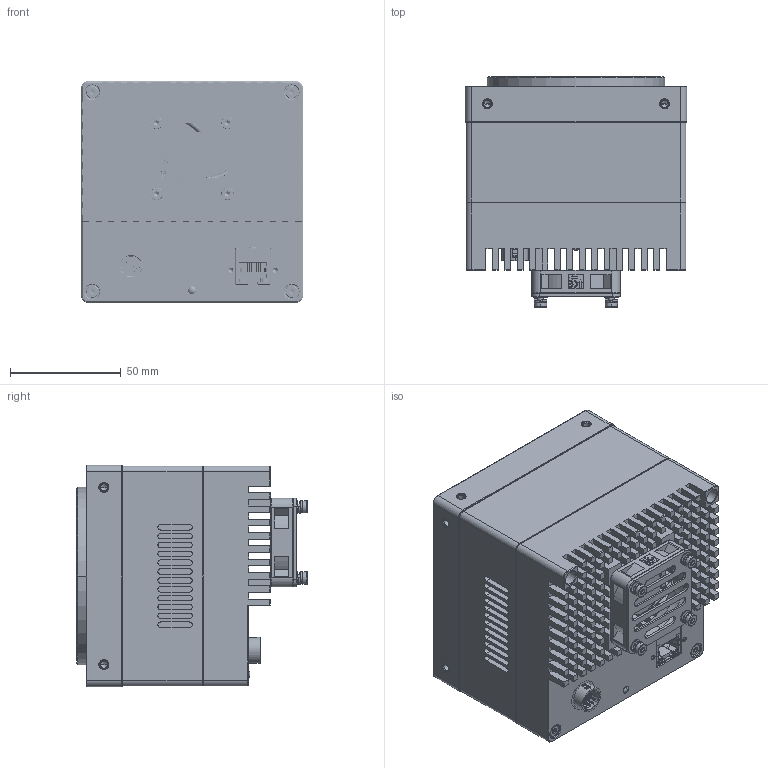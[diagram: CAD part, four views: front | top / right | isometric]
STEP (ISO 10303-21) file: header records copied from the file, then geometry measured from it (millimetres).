
FILE_DESCRIPTION((''),'2;1');
FILE_NAME('DH9-RDI000390-6016_1','2026-03-19T11:38:58',('23989'),(''),'CREO PARAMETRIC BY PTC INC, 2020184','CREO PARAMETRIC BY PTC INC, 2020184','');
FILE_SCHEMA(('CONFIG_CONTROL_DESIGN','SHAPE_APPEARANCE_LAYERS_GROUPS'));
Products named in the file (1): DH9-RDI000390-6016_1
Bounding box: 100 x 104.15 x 100 mm (x, y, z)
Volume: 589380.7 mm3; surface area: 173793.7 mm2
Topology: 5 solids, 95 shells, 4475 faces, 12211 edges, 7912 vertices
Faces by surface type: plane 2599, cylinder 1212, cone 502, torus 87, bspline 66, sphere 8, extrusion 1
Entity records: 193814 total; most frequent: CARTESIAN_POINT 36950, ORIENTED_EDGE 23851, DIRECTION 23620, PRESENTATION_STYLE_ASSIGNMENT 12929, STYLED_ITEM 12142, CURVE_STYLE 12069, EDGE_CURVE 12069, VECTOR 7934
